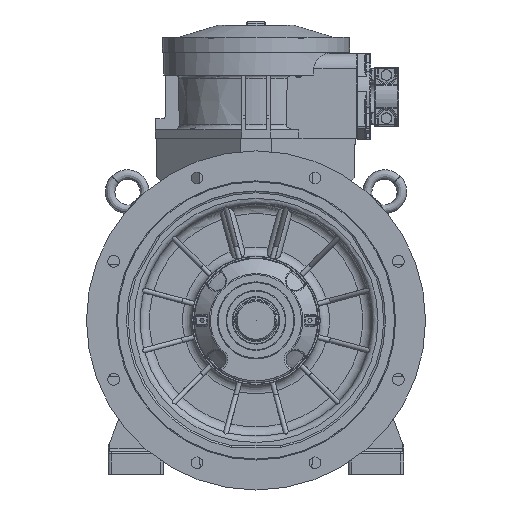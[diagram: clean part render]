
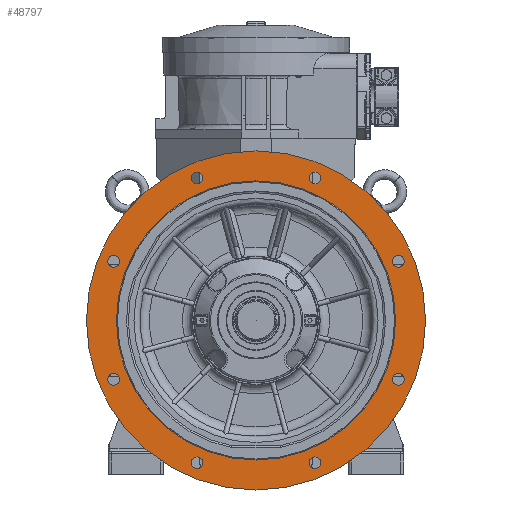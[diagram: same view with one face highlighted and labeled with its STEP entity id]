
A CAD part, left-side view. The second image highlights one B-rep face of the part: STEP entity #48797.
In plain terms, the highlighted planar face has unit normal (-1, 0, 0).
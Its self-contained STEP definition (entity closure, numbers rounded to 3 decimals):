
#7988=PLANE('',#52010);
#16254=ORIENTED_EDGE('',*,*,#22624,.F.);
#16255=ORIENTED_EDGE('',*,*,#22626,.F.);
#16256=ORIENTED_EDGE('',*,*,#22628,.F.);
#16257=ORIENTED_EDGE('',*,*,#22630,.F.);
#16258=ORIENTED_EDGE('',*,*,#22632,.F.);
#16259=ORIENTED_EDGE('',*,*,#22634,.F.);
#16260=ORIENTED_EDGE('',*,*,#22636,.F.);
#16261=ORIENTED_EDGE('',*,*,#22638,.F.);
#16262=ORIENTED_EDGE('',*,*,#22655,.T.);
#16263=ORIENTED_EDGE('',*,*,#22656,.F.);
#22624=EDGE_CURVE('',#26307,#26307,#28102,.T.);
#22626=EDGE_CURVE('',#26309,#26309,#28104,.T.);
#22628=EDGE_CURVE('',#26311,#26311,#28106,.T.);
#22630=EDGE_CURVE('',#26313,#26313,#28108,.T.);
#22632=EDGE_CURVE('',#26315,#26315,#28110,.T.);
#22634=EDGE_CURVE('',#26317,#26317,#28112,.T.);
#22636=EDGE_CURVE('',#26319,#26319,#28114,.T.);
#22638=EDGE_CURVE('',#26321,#26321,#28116,.T.);
#22655=EDGE_CURVE('',#26338,#26338,#28130,.T.);
#22656=EDGE_CURVE('',#26339,#26339,#28131,.F.);
#26307=VERTEX_POINT('',#76211);
#26309=VERTEX_POINT('',#76216);
#26311=VERTEX_POINT('',#76221);
#26313=VERTEX_POINT('',#76226);
#26315=VERTEX_POINT('',#76231);
#26317=VERTEX_POINT('',#76236);
#26319=VERTEX_POINT('',#76241);
#26321=VERTEX_POINT('',#76246);
#26338=VERTEX_POINT('',#76284);
#26339=VERTEX_POINT('',#76286);
#28102=CIRCLE('',#51972,9.5);
#28104=CIRCLE('',#51975,9.5);
#28106=CIRCLE('',#51978,9.5);
#28108=CIRCLE('',#51981,9.5);
#28110=CIRCLE('',#51984,9.5);
#28112=CIRCLE('',#51987,9.5);
#28114=CIRCLE('',#51990,9.5);
#28116=CIRCLE('',#51993,9.5);
#28130=CIRCLE('',#52011,226.4);
#28131=CIRCLE('',#52012,275.);
#30090=EDGE_LOOP('',(#16254));
#30091=EDGE_LOOP('',(#16255));
#30092=EDGE_LOOP('',(#16256));
#30093=EDGE_LOOP('',(#16257));
#30094=EDGE_LOOP('',(#16258));
#30095=EDGE_LOOP('',(#16259));
#30096=EDGE_LOOP('',(#16260));
#30097=EDGE_LOOP('',(#16261));
#30098=EDGE_LOOP('',(#16262));
#30099=EDGE_LOOP('',(#16263));
#32332=FACE_BOUND('',#30090,.T.);
#32333=FACE_BOUND('',#30091,.T.);
#32334=FACE_BOUND('',#30092,.T.);
#32335=FACE_BOUND('',#30093,.T.);
#32336=FACE_BOUND('',#30094,.T.);
#32337=FACE_BOUND('',#30095,.T.);
#32338=FACE_BOUND('',#30096,.T.);
#32339=FACE_BOUND('',#30097,.T.);
#32340=FACE_BOUND('',#30098,.T.);
#32341=FACE_BOUND('',#30099,.T.);
#48797=ADVANCED_FACE('',(#32332,#32333,#32334,#32335,#32336,#32337,#32338,
#32339,#32340,#32341),#7988,.T.);
#51972=AXIS2_PLACEMENT_3D('',#76210,#60374,#60375);
#51975=AXIS2_PLACEMENT_3D('',#76215,#60380,#60381);
#51978=AXIS2_PLACEMENT_3D('',#76220,#60386,#60387);
#51981=AXIS2_PLACEMENT_3D('',#76225,#60392,#60393);
#51984=AXIS2_PLACEMENT_3D('',#76230,#60398,#60399);
#51987=AXIS2_PLACEMENT_3D('',#76235,#60404,#60405);
#51990=AXIS2_PLACEMENT_3D('',#76240,#60410,#60411);
#51993=AXIS2_PLACEMENT_3D('',#76245,#60416,#60417);
#52010=AXIS2_PLACEMENT_3D('',#76282,#60453,#60454);
#52011=AXIS2_PLACEMENT_3D('',#76283,#60455,#60456);
#52012=AXIS2_PLACEMENT_3D('',#76285,#60457,#60458);
#60374=DIRECTION('',(-1.,0.,0.));
#60375=DIRECTION('',(0.,-1.,0.));
#60380=DIRECTION('',(-1.,0.,0.));
#60381=DIRECTION('',(0.,-1.,0.));
#60386=DIRECTION('',(-1.,0.,0.));
#60387=DIRECTION('',(0.,-1.,0.));
#60392=DIRECTION('',(-1.,0.,0.));
#60393=DIRECTION('',(0.,-1.,0.));
#60398=DIRECTION('',(-1.,0.,0.));
#60399=DIRECTION('',(0.,-1.,0.));
#60404=DIRECTION('',(-1.,0.,0.));
#60405=DIRECTION('',(0.,-1.,0.));
#60410=DIRECTION('',(-1.,0.,0.));
#60411=DIRECTION('',(0.,-1.,0.));
#60416=DIRECTION('',(-1.,0.,0.));
#60417=DIRECTION('',(0.,-1.,0.));
#60453=DIRECTION('',(-1.,0.,0.));
#60454=DIRECTION('',(0.,0.,1.));
#60455=DIRECTION('',(1.,0.,0.));
#60456=DIRECTION('',(0.,0.,-1.));
#60457=DIRECTION('',(-1.,0.,0.));
#60458=DIRECTION('',(0.,0.,1.));
#76210=CARTESIAN_POINT('',(-90.,-230.97,95.671));
#76211=CARTESIAN_POINT('',(-90.,-240.47,95.671));
#76215=CARTESIAN_POINT('',(-90.,-230.97,-95.671));
#76216=CARTESIAN_POINT('',(-90.,-240.47,-95.671));
#76220=CARTESIAN_POINT('',(-90.,-95.671,-230.97));
#76221=CARTESIAN_POINT('',(-90.,-105.171,-230.97));
#76225=CARTESIAN_POINT('',(-90.,95.671,-230.97));
#76226=CARTESIAN_POINT('',(-90.,86.171,-230.97));
#76230=CARTESIAN_POINT('',(-90.,230.97,-95.671));
#76231=CARTESIAN_POINT('',(-90.,221.47,-95.671));
#76235=CARTESIAN_POINT('',(-90.,230.97,95.671));
#76236=CARTESIAN_POINT('',(-90.,221.47,95.671));
#76240=CARTESIAN_POINT('',(-90.,95.671,230.97));
#76241=CARTESIAN_POINT('',(-90.,86.171,230.97));
#76245=CARTESIAN_POINT('',(-90.,-95.671,230.97));
#76246=CARTESIAN_POINT('',(-90.,-105.171,230.97));
#76282=CARTESIAN_POINT('',(-90.,0.,-280.019));
#76283=CARTESIAN_POINT('',(-90.,0.,0.));
#76284=CARTESIAN_POINT('',(-90.,0.,-226.4));
#76285=CARTESIAN_POINT('',(-90.,0.,0.));
#76286=CARTESIAN_POINT('',(-90.,0.,275.));
